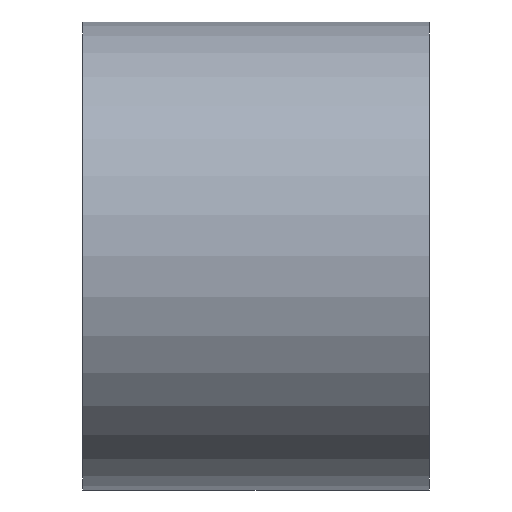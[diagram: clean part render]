
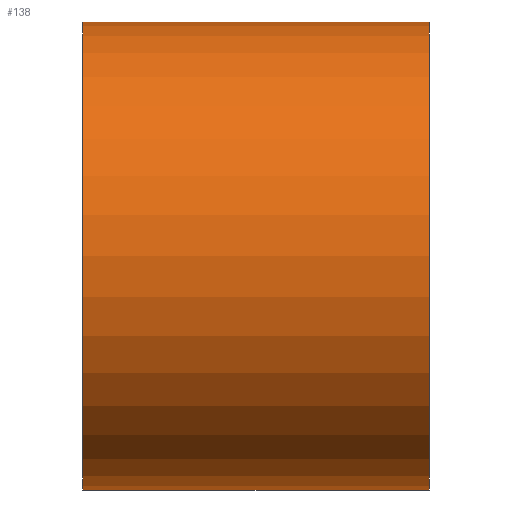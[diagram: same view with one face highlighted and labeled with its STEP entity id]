
A CAD part, front view. The second image highlights one B-rep face of the part: STEP entity #138.
In plain terms, the highlighted cylindrical face has radius 270 mm (diameter 540 mm), a partial arc.
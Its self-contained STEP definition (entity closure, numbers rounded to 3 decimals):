
#138=ADVANCED_FACE('',(#278),#279,.T.);
#278=FACE_OUTER_BOUND('',#429,.T.);
#279=CYLINDRICAL_SURFACE('',#430,270.0);
#429=EDGE_LOOP('',(#775,#776,#777,#778));
#430=AXIS2_PLACEMENT_3D('',#779,#780,#781);
#775=ORIENTED_EDGE('',*,*,#831,.T.);
#776=ORIENTED_EDGE('',*,*,#973,.F.);
#777=ORIENTED_EDGE('',*,*,#833,.T.);
#778=ORIENTED_EDGE('',*,*,#974,.F.);
#779=CARTESIAN_POINT('',(0.0,0.0,0.0));
#780=DIRECTION('',(1.0,0.0,0.0));
#781=DIRECTION('',(0.0,0.0,-1.0));
#831=EDGE_CURVE('',#978,#979,#980,.T.);
#833=EDGE_CURVE('',#983,#981,#984,.T.);
#973=EDGE_CURVE('',#983,#979,#1191,.T.);
#974=EDGE_CURVE('',#978,#981,#1192,.T.);
#978=VERTEX_POINT('',#1196);
#979=VERTEX_POINT('',#1197);
#980=LINE('',#1198,#1199);
#981=VERTEX_POINT('',#1200);
#983=VERTEX_POINT('',#1202);
#984=LINE('',#1203,#1204);
#1191=CIRCLE('',#1455,270.0);
#1192=CIRCLE('',#1456,270.0);
#1196=CARTESIAN_POINT('',(-200.0,0.0,-270.0));
#1197=CARTESIAN_POINT('',(200.0,0.0,-270.0));
#1198=CARTESIAN_POINT('',(0.0,0.,-270.0));
#1199=VECTOR('',#1459,1.0);
#1200=CARTESIAN_POINT('',(-200.0,0.,270.0));
#1202=CARTESIAN_POINT('',(200.0,0.,270.0));
#1203=CARTESIAN_POINT('',(0.0,0.,270.0));
#1204=VECTOR('',#1463,1.0);
#1455=AXIS2_PLACEMENT_3D('',#1682,#1683,#1684);
#1456=AXIS2_PLACEMENT_3D('',#1685,#1686,#1687);
#1459=DIRECTION('',(1.0,0.0,0.0));
#1463=DIRECTION('',(-1.0,-0.0,-0.0));
#1682=CARTESIAN_POINT('',(200.0,0.0,0.0));
#1683=DIRECTION('',(1.0,0.0,0.0));
#1684=DIRECTION('',(0.0,0.0,-1.0));
#1685=CARTESIAN_POINT('',(-200.0,0.0,0.0));
#1686=DIRECTION('',(-1.0,0.0,0.0));
#1687=DIRECTION('',(0.0,0.0,-1.0));
